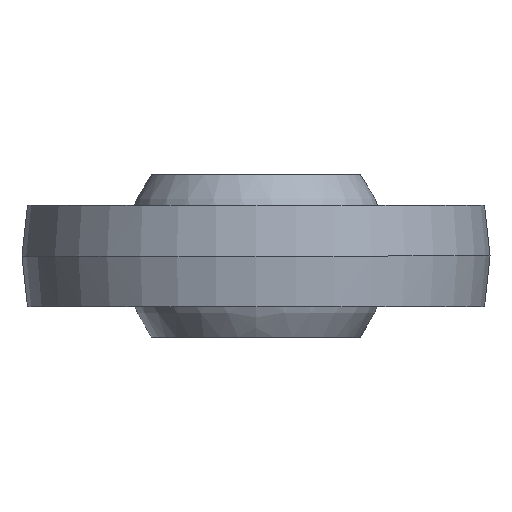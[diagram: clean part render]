
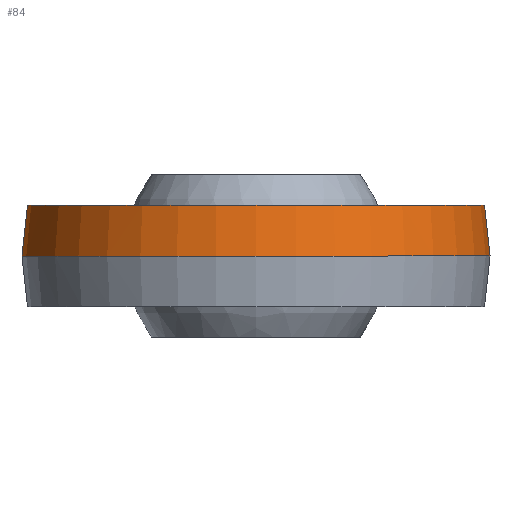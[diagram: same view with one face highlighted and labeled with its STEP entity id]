
A CAD part, left-side view. The second image highlights one B-rep face of the part: STEP entity #84.
In plain terms, the highlighted spherical face has radius 11.5 mm.
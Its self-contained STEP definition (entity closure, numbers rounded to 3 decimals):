
#22 = ORIENTED_EDGE ( 'NONE', *, *, #25, .T. ) ;
#23 = EDGE_CURVE ( 'NONE', #69, #24, #175, .T. ) ;
#24 = VERTEX_POINT ( 'NONE', #170 ) ;
#25 = EDGE_CURVE ( 'NONE', #73, #24, #168, .T. ) ;
#26 = ORIENTED_EDGE ( 'NONE', *, *, #23, .F. ) ;
#37 = EDGE_CURVE ( 'NONE', #74, #41, #202, .T. ) ;
#38 = ORIENTED_EDGE ( 'NONE', *, *, #37, .F. ) ;
#40 = EDGE_CURVE ( 'NONE', #41, #69, #197, .T. ) ;
#41 = VERTEX_POINT ( 'NONE', #192 ) ;
#69 = VERTEX_POINT ( 'NONE', #263 ) ;
#71 = ORIENTED_EDGE ( 'NONE', *, *, #72, .F. ) ;
#72 = EDGE_CURVE ( 'NONE', #73, #74, #257, .T. ) ;
#73 = VERTEX_POINT ( 'NONE', #252 ) ;
#74 = VERTEX_POINT ( 'NONE', #251 ) ;
#84 = ADVANCED_FACE ( 'NONE', ( #295 ), #294, .T. ) ;
#85 = EDGE_LOOP ( 'NONE', ( #71, #22, #26, #102, #38 ) ) ;
#102 = ORIENTED_EDGE ( 'NONE', *, *, #40, .F. ) ;
#164 = DIRECTION ( 'NONE',  ( 0., -1., 0. ) ) ;
#165 = DIRECTION ( 'NONE',  ( 0., 0., 1. ) ) ;
#166 = CARTESIAN_POINT ( 'NONE',  ( 0., 0., 0. ) ) ;
#167 = AXIS2_PLACEMENT_3D ( 'NONE', #166, #165, #164 ) ;
#168 = CIRCLE ( 'NONE', #167, 11.5 ) ;
#170 = CARTESIAN_POINT ( 'NONE',  ( 7.125, -9.027, 0. ) ) ;
#171 = DIRECTION ( 'NONE',  ( 0., 1., 0. ) ) ;
#172 = DIRECTION ( 'NONE',  ( 1., 0., 0. ) ) ;
#173 = CARTESIAN_POINT ( 'NONE',  ( 7.125, 0., 0. ) ) ;
#174 = AXIS2_PLACEMENT_3D ( 'NONE', #173, #172, #171 ) ;
#175 = CIRCLE ( 'NONE', #174, 9.027 ) ;
#192 = CARTESIAN_POINT ( 'NONE',  ( 7.125, 8.674, 2.5 ) ) ;
#193 = DIRECTION ( 'NONE',  ( -1., 0., 0. ) ) ;
#194 = DIRECTION ( 'NONE',  ( 0., 0., 1. ) ) ;
#195 = CARTESIAN_POINT ( 'NONE',  ( 0., 0., 2.5 ) ) ;
#196 = AXIS2_PLACEMENT_3D ( 'NONE', #195, #194, #193 ) ;
#197 = CIRCLE ( 'NONE', #196, 11.225 ) ;
#198 = DIRECTION ( 'NONE',  ( 0., 1., 0. ) ) ;
#199 = DIRECTION ( 'NONE',  ( 1., 0., 0. ) ) ;
#200 = CARTESIAN_POINT ( 'NONE',  ( 7.125, 0., 0. ) ) ;
#201 = AXIS2_PLACEMENT_3D ( 'NONE', #200, #199, #198 ) ;
#202 = CIRCLE ( 'NONE', #201, 9.027 ) ;
#251 = CARTESIAN_POINT ( 'NONE',  ( 7.125, 9.027, 0. ) ) ;
#252 = CARTESIAN_POINT ( 'NONE',  ( -11.5, 0., 0. ) ) ;
#253 = DIRECTION ( 'NONE',  ( -1., 0., 0. ) ) ;
#254 = DIRECTION ( 'NONE',  ( 0., 0., -1. ) ) ;
#255 = CARTESIAN_POINT ( 'NONE',  ( 0., 0., 0. ) ) ;
#256 = AXIS2_PLACEMENT_3D ( 'NONE', #255, #254, #253 ) ;
#257 = CIRCLE ( 'NONE', #256, 11.5 ) ;
#263 = CARTESIAN_POINT ( 'NONE',  ( 7.125, -8.674, 2.5 ) ) ;
#288 = DIRECTION ( 'NONE',  ( 0., 1., 0. ) ) ;
#289 = DIRECTION ( 'NONE',  ( 0., 0., 1. ) ) ;
#290 = AXIS2_PLACEMENT_3D ( 'NONE', #293, #289, #288 ) ;
#293 = CARTESIAN_POINT ( 'NONE',  ( 0., 0., 0. ) ) ;
#294 = SPHERICAL_SURFACE ( 'NONE', #290, 11.5 ) ;
#295 = FACE_OUTER_BOUND ( 'NONE', #85, .T. ) ;
